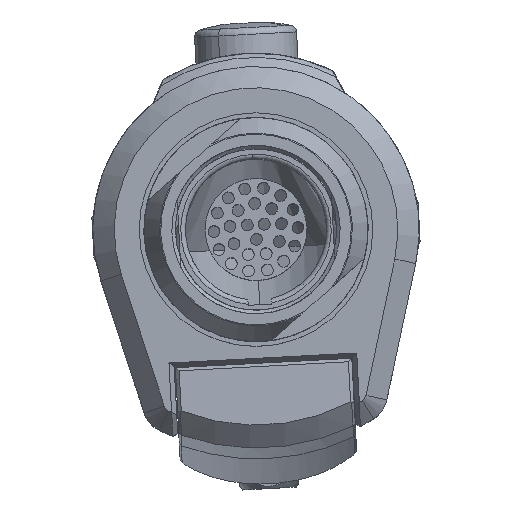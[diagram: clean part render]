
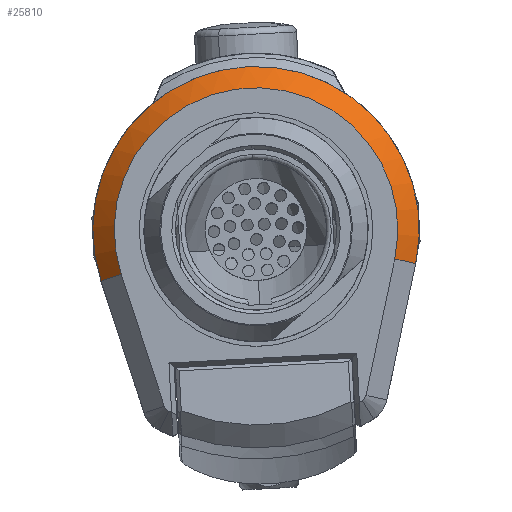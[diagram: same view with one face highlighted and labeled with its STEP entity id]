
A CAD part, top view. The second image highlights one B-rep face of the part: STEP entity #25810.
In plain terms, the highlighted conical face has half-angle 45 degrees and reference radius 17.462 mm.
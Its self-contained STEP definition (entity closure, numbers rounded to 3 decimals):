
#297 = CARTESIAN_POINT ( 'NONE',  ( -13.596, -0.672, 105.486 ) ) ;
#1822 = DIRECTION ( 'NONE',  ( 0.053, -0.999, 0. ) ) ;
#1944 = CONICAL_SURFACE ( 'NONE', #8362, 17.462, 0.785 ) ;
#2261 = CIRCLE ( 'NONE', #14525, 15.176 ) ;
#3147 = CIRCLE ( 'NONE', #5617, 17.462 ) ;
#3585 = CIRCLE ( 'NONE', #24718, 17.462 ) ;
#3843 = DIRECTION ( 'NONE',  ( 0., 0., -1. ) ) ;
#4006 = VERTEX_POINT ( 'NONE', #297 ) ;
#4124 = LINE ( 'NONE', #6419, #9602 ) ;
#4484 = EDGE_CURVE ( 'NONE', #9578, #4006, #2261, .T. ) ;
#5336 = VERTEX_POINT ( 'NONE', #14023 ) ;
#5388 = EDGE_CURVE ( 'NONE', #13126, #4006, #14087, .T. ) ;
#5617 = AXIS2_PLACEMENT_3D ( 'NONE', #19081, #25760, #21559 ) ;
#6221 = EDGE_LOOP ( 'NONE', ( #16846, #9920, #28067, #9529, #19619 ) ) ;
#6419 = CARTESIAN_POINT ( 'NONE',  ( 17.898, 0.477, 103.2 ) ) ;
#6700 = EDGE_CURVE ( 'NONE', #5336, #9578, #4124, .T. ) ;
#7390 = FACE_OUTER_BOUND ( 'NONE', #6221, .T. ) ;
#8362 = AXIS2_PLACEMENT_3D ( 'NONE', #12280, #19984, #27138 ) ;
#8805 = VERTEX_POINT ( 'NONE', #22754 ) ;
#9529 = ORIENTED_EDGE ( 'NONE', *, *, #15044, .F. ) ;
#9578 = VERTEX_POINT ( 'NONE', #15290 ) ;
#9602 = VECTOR ( 'NONE', #12888, 1000. ) ;
#9920 = ORIENTED_EDGE ( 'NONE', *, *, #4484, .F. ) ;
#10484 = CARTESIAN_POINT ( 'NONE',  ( -15.768, -1.385, 103.2 ) ) ;
#12185 = CARTESIAN_POINT ( 'NONE',  ( -15.044, -1.147, 103.962 ) ) ;
#12280 = CARTESIAN_POINT ( 'NONE',  ( 0.813, 4.092, 103.2 ) ) ;
#12505 = CARTESIAN_POINT ( 'NONE',  ( -13.596, -0.672, 105.486 ) ) ;
#12888 = DIRECTION ( 'NONE',  ( -0.692, 0.146, 0.707 ) ) ;
#13126 = VERTEX_POINT ( 'NONE', #10484 ) ;
#13275 = DIRECTION ( 'NONE',  ( 0.053, -0.999, 0. ) ) ;
#14023 = CARTESIAN_POINT ( 'NONE',  ( 17.898, 0.477, 103.2 ) ) ;
#14087 = B_SPLINE_CURVE_WITH_KNOTS ( 'NONE', 3,
 ( #14762, #12185, #28893, #12505 ),
 .UNSPECIFIED., .F., .F.,
 ( 4, 4 ),
 ( 0., 0.003 ),
 .UNSPECIFIED. ) ;
#14525 = AXIS2_PLACEMENT_3D ( 'NONE', #17902, #27386, #13275 ) ;
#14762 = CARTESIAN_POINT ( 'NONE',  ( -15.768, -1.385, 103.2 ) ) ;
#15044 = EDGE_CURVE ( 'NONE', #8805, #5336, #3147, .T. ) ;
#15290 = CARTESIAN_POINT ( 'NONE',  ( 15.661, 0.95, 105.486 ) ) ;
#16846 = ORIENTED_EDGE ( 'NONE', *, *, #5388, .T. ) ;
#17902 = CARTESIAN_POINT ( 'NONE',  ( 0.813, 4.092, 105.486 ) ) ;
#19081 = CARTESIAN_POINT ( 'NONE',  ( 0.813, 4.092, 103.2 ) ) ;
#19619 = ORIENTED_EDGE ( 'NONE', *, *, #27933, .F. ) ;
#19984 = DIRECTION ( 'NONE',  ( 0., 0., -1. ) ) ;
#21559 = DIRECTION ( 'NONE',  ( 0.053, -0.999, 0. ) ) ;
#22754 = CARTESIAN_POINT ( 'NONE',  ( -0.117, 21.53, 103.2 ) ) ;
#24718 = AXIS2_PLACEMENT_3D ( 'NONE', #29774, #3843, #1822 ) ;
#25760 = DIRECTION ( 'NONE',  ( 0., 0., -1. ) ) ;
#25810 = ADVANCED_FACE ( 'NONE', ( #7390 ), #1944, .T. ) ;
#27138 = DIRECTION ( 'NONE',  ( 0.053, -0.999, 0. ) ) ;
#27386 = DIRECTION ( 'NONE',  ( 0., 0., 1. ) ) ;
#27933 = EDGE_CURVE ( 'NONE', #13126, #8805, #3585, .T. ) ;
#28067 = ORIENTED_EDGE ( 'NONE', *, *, #6700, .F. ) ;
#28893 = CARTESIAN_POINT ( 'NONE',  ( -14.32, -0.909, 104.724 ) ) ;
#29774 = CARTESIAN_POINT ( 'NONE',  ( 0.813, 4.092, 103.2 ) ) ;
